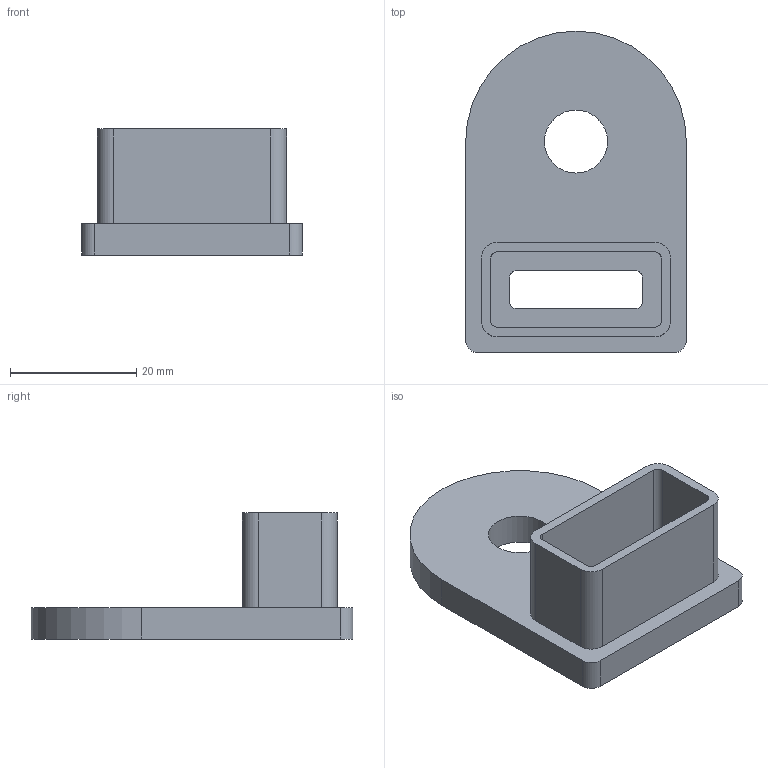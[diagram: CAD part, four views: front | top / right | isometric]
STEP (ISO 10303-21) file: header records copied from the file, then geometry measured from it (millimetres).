
FILE_DESCRIPTION (( 'STEP AP203' ), '1' );
FILE_NAME ('Fäste för rundstångsräcke.STEP', '2014-09-26T06:22:00', ( '' ), ( '' ), 'SwSTEP 2.0', 'SolidWorks 2014', '' );
FILE_SCHEMA (( 'CONFIG_CONTROL_DESIGN' ));
Length unit declared in the file: millimetre
Products named in the file (1): Fäste för rundstångsräcke
Bounding box: 35 x 51 x 20 mm (x, y, z)
Volume: 9063.2 mm3; surface area: 6521 mm2
Topology: 1 solids, 1 shells, 36 faces, 96 edges, 64 vertices
Faces by surface type: plane 19, cylinder 17
Entity records: 1219 total; most frequent: DIRECTION 204, CARTESIAN_POINT 197, ORIENTED_EDGE 192, EDGE_CURVE 96, AXIS2_PLACEMENT_3D 71, VERTEX_POINT 64, VECTOR 62, LINE 62
